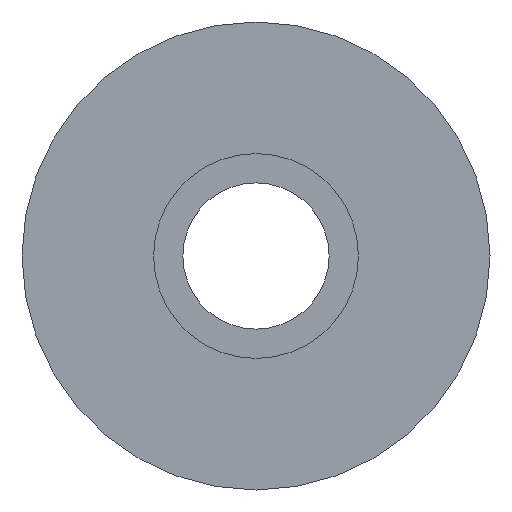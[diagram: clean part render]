
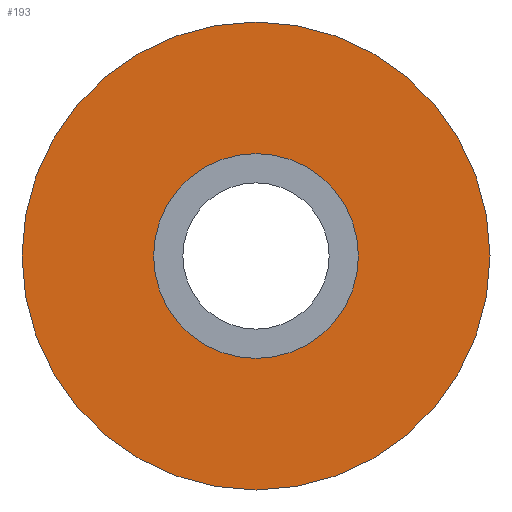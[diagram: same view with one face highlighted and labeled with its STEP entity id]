
A CAD part, front view. The second image highlights one B-rep face of the part: STEP entity #193.
In plain terms, the highlighted planar face has unit normal (0, -1, 0).
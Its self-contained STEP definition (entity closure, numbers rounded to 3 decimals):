
#19 = PLANE ( 'NONE',  #205 ) ;
#40 = DIRECTION ( 'NONE',  ( 0., 1., 0. ) ) ;
#43 = FACE_BOUND ( 'NONE', #142, .T. ) ;
#44 = CARTESIAN_POINT ( 'NONE',  ( 0., -3.5, 8. ) ) ;
#49 = AXIS2_PLACEMENT_3D ( 'NONE', #132, #253, #95 ) ;
#55 = CIRCLE ( 'NONE', #58, 3.5 ) ;
#58 = AXIS2_PLACEMENT_3D ( 'NONE', #192, #40, #82 ) ;
#64 = ORIENTED_EDGE ( 'NONE', *, *, #160, .T. ) ;
#78 = FACE_OUTER_BOUND ( 'NONE', #163, .T. ) ;
#82 = DIRECTION ( 'NONE',  ( 0., 0., 1. ) ) ;
#94 = EDGE_CURVE ( 'NONE', #243, #243, #161, .T. ) ;
#95 = DIRECTION ( 'NONE',  ( 0., 0., 1. ) ) ;
#132 = CARTESIAN_POINT ( 'NONE',  ( 0., -3.5, 0. ) ) ;
#135 = CARTESIAN_POINT ( 'NONE',  ( 3.5, -3.5, 0. ) ) ;
#142 = EDGE_LOOP ( 'NONE', ( #64 ) ) ;
#160 = EDGE_CURVE ( 'NONE', #226, #226, #55, .T. ) ;
#161 = CIRCLE ( 'NONE', #49, 8. ) ;
#163 = EDGE_LOOP ( 'NONE', ( #227 ) ) ;
#177 = DIRECTION ( 'NONE',  ( 0., 0., 1. ) ) ;
#192 = CARTESIAN_POINT ( 'NONE',  ( 0., -3.5, 0. ) ) ;
#193 = ADVANCED_FACE ( 'NONE', ( #78, #43 ), #19, .F. ) ;
#195 = DIRECTION ( 'NONE',  ( 0., 1., 0. ) ) ;
#205 = AXIS2_PLACEMENT_3D ( 'NONE', #135, #195, #177 ) ;
#226 = VERTEX_POINT ( 'NONE', #245 ) ;
#227 = ORIENTED_EDGE ( 'NONE', *, *, #94, .F. ) ;
#243 = VERTEX_POINT ( 'NONE', #44 ) ;
#245 = CARTESIAN_POINT ( 'NONE',  ( 0., -3.5, 3.5 ) ) ;
#253 = DIRECTION ( 'NONE',  ( 0., 1., 0. ) ) ;
